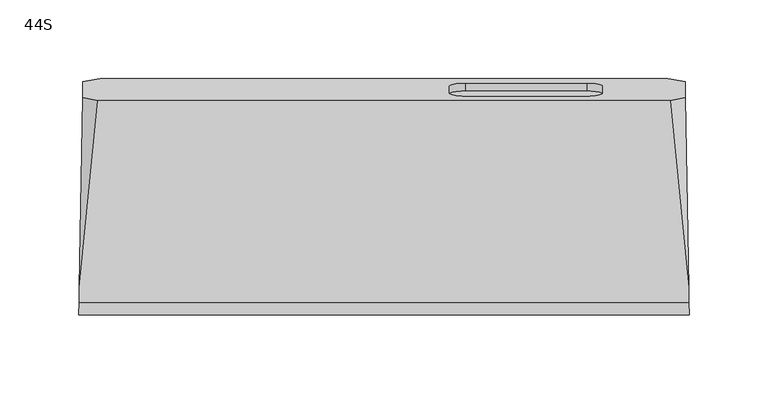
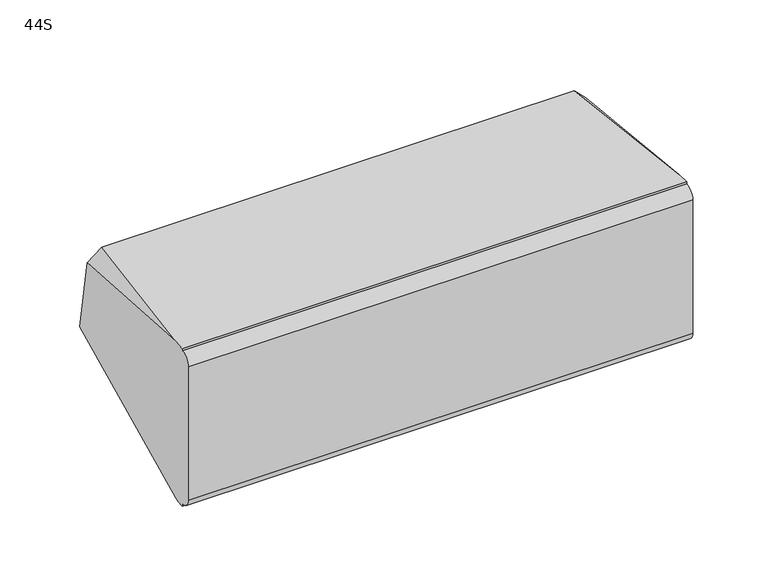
"""IFC4 building model written with IfcOpenShell, lengths in millimetres: proxy geometry, d&b xS-Series 44S Point Source : 44S."""

import ifcopenshell
import ifcopenshell.guid

model = None  # the IFC model being written
_history = None  # IfcOwnerHistory: only IFC2X3 demands one
_inside = {}  # id of a spatial element -> (the spatial element, [elements in it])
_under = {}  # id of a project, library or spatial element -> (it, [spatial elements below it])
_declared = {}  # id of a project -> (the project, [libraries it declares])
_typed = {}  # id of a type object -> (the type object, [elements of that type])
_made_of = {}  # id of a material, layer set ... -> (it, [elements and type objects made of it])


def new_model(schema):
    """Start an empty IFC model of exactly this schema.

    Asked for "IFC4X3", IfcOpenShell would pick the latest addendum, in which some entities
    have other attributes; the version numbers below select the first issue.
    IFC2X3 requires an IfcOwnerHistory on every rooted entity: one is made here for all.
    """
    global model, _history
    if schema == "IFC4X3":
        model = ifcopenshell.file(schema_version=(4, 3, 0, 0))
    else:
        model = ifcopenshell.file(schema=schema)
    _inside.clear()
    _under.clear()
    _declared.clear()
    _typed.clear()
    _made_of.clear()
    _history = None
    if model.schema == "IFC2X3":
        org = make("IfcOrganization", Name="unknown")
        user = make(
            "IfcPersonAndOrganization",
            ThePerson=make("IfcPerson", FamilyName="unknown"),
            TheOrganization=org,
        )
        app = make(
            "IfcApplication",
            ApplicationDeveloper=org,
            Version="unknown",
            ApplicationFullName="unknown",
            ApplicationIdentifier="unknown",
        )
        _history = make(
            "IfcOwnerHistory",
            OwningUser=user,
            OwningApplication=app,
            ChangeAction="ADDED",
            CreationDate=0,
        )
    return model


def make(cls, **values):
    """One entity of the class cls with the attributes given. An attribute that is None is left unset."""
    return model.create_entity(
        cls, **{name: value for name, value in values.items() if value is not None}
    )


def rooted(cls, **values):
    """An entity with a GlobalId (a new one), such as an element, a storey or a relation."""
    return make(cls, GlobalId=ifcopenshell.guid.new(), OwnerHistory=_history, **values)


def si_unit(unit_type, name, prefix=None):
    """IfcSIUnit, for example si_unit("LENGTHUNIT", "METRE", prefix="MILLI")."""
    return make("IfcSIUnit", UnitType=unit_type, Prefix=prefix, Name=name)


def assignment(units):
    """IfcUnitAssignment: the units of a project."""
    return None if units is None else make("IfcUnitAssignment", Units=units)


def point(xyz):
    """IfcCartesianPoint."""
    return None if xyz is None else make("IfcCartesianPoint", Coordinates=xyz)


def direction(xyz):
    """IfcDirection."""
    return None if xyz is None else make("IfcDirection", DirectionRatios=xyz)


def frame(location, z_axis=None, x_axis=None):
    """IfcAxis2Placement3D, a coordinate frame: its origin and axes. An axis left out is left unset."""
    return make(
        "IfcAxis2Placement3D",
        Location=point(location),
        Axis=direction(z_axis),
        RefDirection=direction(x_axis),
    )


def origin():
    """The frame at (0, 0, 0) with its axes left unset."""
    return frame((0.0, 0.0, 0.0))


def place(relative_to, where):
    """IfcLocalPlacement: puts the frame where relative to a parent placement (None: the world)."""
    return make(
        "IfcLocalPlacement", PlacementRelTo=relative_to, RelativePlacement=where
    )


def context(
    kind, dimensions, precision=None, world=None, true_north=None, identifier=None
):
    """IfcGeometricRepresentationContext, for example the 3D "Model" context."""
    return make(
        "IfcGeometricRepresentationContext",
        ContextIdentifier=identifier,
        ContextType=kind,
        CoordinateSpaceDimension=dimensions,
        Precision=precision,
        WorldCoordinateSystem=world,
        TrueNorth=true_north,
    )


def project(units=None, contexts=None):
    """IfcProject with its units and contexts."""
    return rooted(
        "IfcProject",
        Name="project",
        RepresentationContexts=contexts,
        UnitsInContext=assignment(units),
    )


def spatial(cls, under=None, at=None, **own):
    """A site, building, storey or space (cls), placed at a placement, below another one or the project."""
    s = rooted(cls, ObjectPlacement=at, **own)
    if under is not None:
        _under.setdefault(under.id(), (under, []))[1].append(s)
    return s


def polyline(points):
    """IfcPolyline through the points."""
    return make("IfcPolyline", Points=[point(p) for p in points])


def circle_curve(where, radius):
    """IfcCircle in the frame where."""
    return make("IfcCircle", Position=where, Radius=radius)


def ellipse_curve(where, semi_axis1, semi_axis2):
    """IfcEllipse in the frame where."""
    return make(
        "IfcEllipse", Position=where, SemiAxis1=semi_axis1, SemiAxis2=semi_axis2
    )


def shape(context_of_items, identifier, shape_type, items):
    """IfcShapeRepresentation: the items that make up one representation, for example the "Body"."""
    return make(
        "IfcShapeRepresentation",
        ContextOfItems=context_of_items,
        RepresentationIdentifier=identifier,
        RepresentationType=shape_type,
        Items=items,
    )


def source(mapping_origin, context_of_items, identifier, shape_type, items):
    """IfcRepresentationMap: a shape defined once, which mapped items show again and again."""
    return make(
        "IfcRepresentationMap",
        MappingOrigin=mapping_origin,
        MappedRepresentation=shape(context_of_items, identifier, shape_type, items),
    )


def transform(
    local_origin,
    x_axis=None,
    y_axis=None,
    z_axis=None,
    scale=None,
    scale2=None,
    scale3=None,
    uniform=True,
):
    """IfcCartesianTransformationOperator3D, or its non-uniform kind. x_axis, y_axis, z_axis: its Axis1, 2, 3."""
    if uniform:
        return make(
            "IfcCartesianTransformationOperator3D",
            Axis1=direction(x_axis),
            Axis2=direction(y_axis),
            LocalOrigin=point(local_origin),
            Scale=scale,
            Axis3=direction(z_axis),
        )
    return make(
        "IfcCartesianTransformationOperator3DnonUniform",
        Axis1=direction(x_axis),
        Axis2=direction(y_axis),
        LocalOrigin=point(local_origin),
        Scale=scale,
        Axis3=direction(z_axis),
        Scale2=scale2,
        Scale3=scale3,
    )


def mapped(mapping_source, mapping_target):
    """IfcMappedItem: shows the shape of a source again, moved by a transform."""
    return make(
        "IfcMappedItem", MappingSource=mapping_source, MappingTarget=mapping_target
    )


def made_of(thing, what):
    """Note that an element or type object is made of a material, layer set ...; save() writes the relation."""
    if what is not None:
        _made_of.setdefault(what.id(), (what, []))[1].append(thing)
    return thing


def element(
    cls,
    number,
    at=None,
    inside=None,
    cuts=None,
    type_object=None,
    material=None,
    context=None,
    identifier="Body",
    shape_type=None,
    held_by="IfcProductDefinitionShape",
    body=None,
    shapes=None,
    **own,
):
    """One element of the class cls, such as IfcWall. Its Tag is "e" and its number.

    at: its placement. inside: the storey or other place that contains it. cuts: it is an
    opening in that element (IfcRelVoidsElement). A single representation is given by context,
    identifier, shape_type and body (its items); several are given by shapes. held_by: the class
    of the entity that holds the representations. save() writes the other relations.
    """
    e = rooted(cls, Tag="e%d" % number, ObjectPlacement=at, **own)
    if body is not None:
        shapes = [shape(context, identifier, shape_type, body)]
    if shapes is not None:
        e.Representation = make(held_by, Representations=shapes)
    if inside is not None:
        _inside.setdefault(inside.id(), (inside, []))[1].append(e)
    if cuts is not None:
        rooted(
            "IfcRelVoidsElement", RelatingBuildingElement=cuts, RelatedOpeningElement=e
        )
    if type_object is not None:
        _typed.setdefault(type_object.id(), (type_object, []))[1].append(e)
    return made_of(e, material)


def aggregate(whole, parts):
    """IfcRelAggregates: a whole, such as a stair, and the parts it consists of."""
    return rooted("IfcRelAggregates", RelatingObject=whole, RelatedObjects=parts)


def save(model, path):
    """Write the relations noted so far, then the file.

    IfcRelAggregates (storeys below a building ...), IfcRelContainedInSpatialStructure (elements
    in a storey), IfcRelDefinesByType, IfcRelAssociatesMaterial and IfcRelDeclares: one each for
    every whole, place, type object, material and project.
    """
    for whole, parts in _under.values():
        aggregate(whole, parts)
    for where, things in _inside.values():
        rooted(
            "IfcRelContainedInSpatialStructure",
            RelatedElements=things,
            RelatingStructure=where,
        )
    for kind, things in _typed.values():
        rooted("IfcRelDefinesByType", RelatedObjects=things, RelatingType=kind)
    for what, things in _made_of.values():
        rooted("IfcRelAssociatesMaterial", RelatedObjects=things, RelatingMaterial=what)
    for by, libraries in _declared.values():
        rooted("IfcRelDeclares", RelatingContext=by, RelatedDefinitions=libraries)
    model.write(path)


def plane_surface(at):
    """IfcPlane: the flat surface through the origin of the frame at, square to its z axis."""
    return make("IfcPlane", Position=at)


def cylinder_surface(at, radius):
    """IfcCylindricalSurface: all points at the distance radius from the z axis of the frame at."""
    return make("IfcCylindricalSurface", Position=at, Radius=radius)


def revolved_surface(curve, axis_point, axis_direction):
    """IfcSurfaceOfRevolution: the curve turned about the line through axis_point along axis_direction."""
    return make(
        "IfcSurfaceOfRevolution",
        SweptCurve=make("IfcArbitraryOpenProfileDef", ProfileType="CURVE", Curve=curve),
        AxisPosition=make("IfcAxis1Placement", Location=point(axis_point), Axis=direction(axis_direction)),
    )


def advanced_brep(points, edges, surfaces, faces):
    """IfcAdvancedBrep: a solid bounded by faces that lie on surfaces and meet in shared edges.

    An edge is (start, end): straight between two places in points (the first is 0);
    or (start, end, curve); or (start, end, curve, False) where it runs against its curve.
    A face is (place in surfaces, loops), or (place, loops, False) where it looks against
    its surface's normal. A loop lists edges by number (the first is 1), with a minus sign
    where the edge is run from its end to its start. The first loop is the outer one.
    """
    corners = [point(p) for p in points]
    vertices = [make("IfcVertexPoint", VertexGeometry=c) for c in corners]
    made = []
    for start, end, *more in edges:
        made.append(
            make(
                "IfcEdgeCurve",
                EdgeStart=vertices[start],
                EdgeEnd=vertices[end],
                EdgeGeometry=more[0] if more else make("IfcPolyline", Points=[corners[start], corners[end]]),
                SameSense=more[1] if len(more) > 1 else True,
            )
        )
    hull = []
    for where, loops, *sense in faces:
        bounds = []
        for j, loop in enumerate(loops):
            ring = [make("IfcOrientedEdge", EdgeElement=made[abs(k) - 1], Orientation=k > 0) for k in loop]
            bounds.append(
                make(
                    "IfcFaceOuterBound" if j == 0 else "IfcFaceBound",
                    Bound=make("IfcEdgeLoop", EdgeList=ring),
                    Orientation=True,
                )
            )
        hull.append(make("IfcAdvancedFace", Bounds=bounds, FaceSurface=surfaces[where], SameSense=sense[0] if sense else True))
    return make("IfcAdvancedBrep", Outer=make("IfcClosedShell", CfsFaces=hull))


def proxy_44s_4462d177(model_context):
    return source(origin(), model_context, "Body", "AdvancedBrep", [
        advanced_brep(
        [(193.2924342, -66.0, 64.0), (193.2924342, -66.0, 62.0435242), (193.4294708, -73.9650952, 54.078429), (193.4294708, -73.9650952, -54.0), (193.2918337, -65.9650952, -62.0), (193.2918337, -65.9650952, -64.0), (193.1898069, -60.0349048, -64.0), (193.132384, -56.6972655, -62.7855103), (190.8800877, 74.2148737, -4.3760941), (191.0574064, 63.9084293, 54.074657), (193.132384, -56.6972655, 64.0), (-193.2924342, -66.0, 62.0435242), (-193.2924342, -66.0, 64.0), (-193.132384, -56.6972655, 64.0), (-191.0574064, 63.9084293, 54.074657), (-190.8800877, 74.2148737, -4.3760941), (-193.132384, -56.6972655, -62.7855103), (-193.1898069, -60.0349048, -64.0), (-193.2918337, -65.9650952, -64.0), (-193.2918337, -65.9650952, -62.0), (-193.4294708, -73.9650952, -54.0), (-193.4294708, -73.9650952, 54.078429), (181.3061997, 62.1583235, 64.0), (-181.3061997, 62.1583235, 64.0), (-179.9289467, 76.0, -14.5000481), (179.9289467, 76.0, -14.5000481), (138.5, 71.3365881, 11.9474751), (138.5, 66.8217355, 37.5524767), (128.5, 65.0852537, 47.4005542), (51.5, 65.0852537, 47.4005542), (41.5, 66.8217355, 37.5524767), (41.5, 71.3365881, 11.9474751), (51.5, 73.0730698, 2.0993976), (128.5, 73.0730698, 2.0993976), (138.5, 66.4125493, 11.0792343), (128.5, 68.1490311, 1.2311567), (51.5, 68.1490311, 1.2311567), (41.5, 66.4125493, 11.0792343), (41.5, 61.8976967, 36.6842358), (51.5, 60.1612149, 46.5323134), (128.5, 60.1612149, 46.5323134), (138.5, 61.8976967, 36.6842358)],
        [
            (0, 1),
            (1, 2, ellipse_curve(frame((193.2924342, -66.0, 54.078429), z_axis=(0.9998520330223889, 0.017202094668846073, 0.0), x_axis=(0.01720209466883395, -0.999852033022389, 0.0)), 7.9662739, 7.9650952)),
            (2, 3),
            (3, 4, ellipse_curve(frame((193.2918337, -65.9650952, -54.0), z_axis=(0.9998520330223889, 0.017202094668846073, 0.0), x_axis=(0.01720209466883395, -0.999852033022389, 0.0)), 8.0011839, 8.0)),
            (4, 5),
            (5, 6),
            (6, 7),
            (7, 8),
            (8, 9),
            (9, 10),
            (10, 0),
            (11, 12),
            (12, 13),
            (13, 14),
            (14, 15),
            (15, 16),
            (16, 17),
            (17, 18),
            (18, 19),
            (19, 20, ellipse_curve(frame((-193.2918337, -65.9650952, -54.0), z_axis=(-0.999852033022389, 0.01720209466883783, 0.0), x_axis=(0.017202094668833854, 0.999852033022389, 0.0)), 8.0011839, 8.0)),
            (20, 21),
            (21, 11, ellipse_curve(frame((-193.2924342, -66.0, 54.078429), z_axis=(-0.999852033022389, 0.01720209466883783, 0.0), x_axis=(0.017202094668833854, 0.999852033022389, 0.0)), 7.9662739, 7.9650952)),
            (0, 12),
            (11, 1),
            (21, 2),
            (20, 3),
            (19, 4),
            (18, 5),
            (17, 6),
            (10, 22),
            (22, 23),
            (23, 13),
            (16, 24),
            (24, 25),
            (25, 7),
            (9, 22),
            (23, 14),
            (15, 24),
            (25, 8),
            (26, 27),
            (27, 28, circle_curve(frame((128.5, 66.8217355, 37.5524767), z_axis=(0.0, -0.9848077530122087, -0.17364817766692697), x_axis=(0.0, 0.17364817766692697, -0.9848077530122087)), 10.0)),
            (28, 29),
            (29, 30, circle_curve(frame((51.5, 66.8217355, 37.5524767), z_axis=(0.0, -0.9848077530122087, -0.17364817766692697), x_axis=(0.0, 0.17364817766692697, -0.9848077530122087)), 10.0)),
            (30, 31),
            (31, 32, circle_curve(frame((51.5, 71.3365881, 11.9474751), z_axis=(0.0, -0.9848077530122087, -0.17364817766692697), x_axis=(0.0, 0.17364817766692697, -0.9848077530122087)), 10.0)),
            (32, 33),
            (33, 26, circle_curve(frame((128.5, 71.3365881, 11.9474751), z_axis=(0.0, -0.9848077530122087, -0.17364817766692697), x_axis=(0.0, 0.17364817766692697, -0.9848077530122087)), 10.0)),
            (34, 35, circle_curve(frame((128.5, 66.4125493, 11.0792343), z_axis=(0.0, 0.9848077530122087, 0.17364817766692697), x_axis=(0.0, 0.17364817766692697, -0.9848077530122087)), 10.0)),
            (35, 36),
            (36, 37, circle_curve(frame((51.5, 66.4125493, 11.0792343), z_axis=(0.0, 0.9848077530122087, 0.17364817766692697), x_axis=(0.0, 0.17364817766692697, -0.9848077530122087)), 10.0)),
            (37, 38),
            (38, 39, circle_curve(frame((51.5, 61.8976967, 36.6842358), z_axis=(0.0, 0.9848077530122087, 0.17364817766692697), x_axis=(0.0, 0.17364817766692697, -0.9848077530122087)), 10.0)),
            (39, 40),
            (40, 41, circle_curve(frame((128.5, 61.8976967, 36.6842358), z_axis=(0.0, 0.9848077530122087, 0.17364817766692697), x_axis=(0.0, 0.17364817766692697, -0.9848077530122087)), 10.0)),
            (41, 34),
            (41, 27),
            (26, 34),
            (40, 28),
            (39, 29),
            (38, 30),
            (37, 31),
            (36, 32),
            (35, 33),
        ],
        [
            plane_surface(frame((193.8309972, -97.3033587, -100.0), z_axis=(0.9998520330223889, 0.017202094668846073, 0.0), x_axis=(0.0, 0.0, 1.0))),
            plane_surface(frame((-190.7119283, 83.9889493, -100.0), z_axis=(-0.999852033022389, 0.01720209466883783, 0.0), x_axis=(0.0, 0.0, 1.0))),
            plane_surface(frame((207.1452552, -66.0, 64.0), z_axis=(0.0, -1.0, 0.0), x_axis=(-1.0, 0.0, 0.0))),
            cylinder_surface(frame((-207.1452552, -66.0, 54.078429), z_axis=(1.0, 0.0, 0.0), x_axis=(0.0, 0.0, 1.0)), 7.9650952),
            plane_surface(frame((207.1452552, -73.9650952, 54.078429), z_axis=(0.0, -1.0, 0.0), x_axis=(-1.0, 0.0, 0.0))),
            cylinder_surface(frame((-207.1452552, -65.9650952, -54.0), z_axis=(1.0, 0.0, 0.0), x_axis=(0.0, 0.0, 1.0)), 8.0),
            plane_surface(frame((207.1452552, -65.9650952, -62.0), z_axis=(0.0, -1.0, 0.0), x_axis=(-1.0, 0.0, 0.0))),
            plane_surface(frame((207.1452552, -65.9650952, -64.0), z_axis=(0.0, 0.0, -1.0), x_axis=(-1.0, 0.0, 0.0))),
            plane_surface(frame((207.1452552, -60.0349048, 64.0), z_axis=(0.0, 0.0, 1.0), x_axis=(-1.0, 0.0, 0.0))),
            plane_surface(frame((0.0, 76.0, -14.5000481), z_axis=(0.0, 0.34194264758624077, -0.939720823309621), x_axis=(1.0, 0.0, 0.0))),
            plane_surface(frame((186.6967137, 76.0, 57.232233), z_axis=(0.705363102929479, 0.07018394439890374, 0.7053631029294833), x_axis=(-0.7071067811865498, 0.0, 0.7071067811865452))),
            plane_surface(frame((-186.6967137, 76.0, 57.232233), z_axis=(-0.7053631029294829, 0.07018394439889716, 0.70536310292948), x_axis=(-0.7071067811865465, 0.0, -0.7071067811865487))),
            plane_surface(frame((-186.6967137, 76.0, -7.7322812), z_axis=(-0.6719558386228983, 0.31136907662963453, -0.6719558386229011), x_axis=(0.7071067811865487, 0.0, -0.7071067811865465))),
            plane_surface(frame((186.6967137, 76.0, -7.7322812), z_axis=(0.6719558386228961, 0.31136907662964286, -0.6719558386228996), x_axis=(0.7071067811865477, 0.0, 0.7071067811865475))),
            plane_surface(frame((250.0, 59.1151772, 81.2585403), z_axis=(0.0, 0.9848077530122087, 0.17364817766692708), x_axis=(-1.0, 0.0, 0.0))),
            plane_surface(frame((138.5, 57.2342848, 63.1317591), z_axis=(0.0, 0.9848077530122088, 0.173648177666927), x_axis=(0.0, -0.173648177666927, 0.9848077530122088))),
            plane_surface(frame((138.5, 66.4125493, 11.0792343), z_axis=(-1.0, 0.0, 0.0), x_axis=(0.0, 0.9848077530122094, 0.1736481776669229))),
            revolved_surface(polyline([(128.5, 63.63417846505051, 26.836158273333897), (128.5, 68.55821727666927, 27.704399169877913)]), (128.5, 66.8217355, 37.5524767), (0.0, -0.9848077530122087, -0.17364817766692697)),
            plane_surface(frame((128.5, 60.1612149, 46.5323134), z_axis=(0.0, 0.1736481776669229, -0.9848077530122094), x_axis=(0.0, 0.9848077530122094, 0.1736481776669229))),
            revolved_surface(polyline([(51.5, 63.63417846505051, 26.836158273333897), (51.5, 68.55821727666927, 27.704399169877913)]), (51.5, 66.8217355, 37.5524767), (0.0, -0.9848077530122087, -0.17364817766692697)),
            plane_surface(frame((41.5, 61.8976967, 36.6842358), z_axis=(1.0, 0.0, 0.0), x_axis=(0.0, 0.9848077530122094, 0.1736481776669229))),
            revolved_surface(polyline([(51.5, 68.1490310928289, 1.2311566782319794), (51.5, 73.07306987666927, 2.0993975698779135)]), (51.5, 71.3365881, 11.9474751), (0.0, -0.9848077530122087, -0.17364817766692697)),
            plane_surface(frame((51.5, 68.1490311, 1.2311567), z_axis=(0.0, -0.1736481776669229, 0.9848077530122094), x_axis=(0.0, 0.9848077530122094, 0.1736481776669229))),
            revolved_surface(polyline([(128.5, 68.1490310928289, 1.2311566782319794), (128.5, 73.07306987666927, 2.0993975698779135)]), (128.5, 71.3365881, 11.9474751), (0.0, -0.9848077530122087, -0.17364817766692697)),
        ],
        [
            (0, [[1, 2, 3, 4, 5, 6, 7, 8, 9, 10, 11]]),
            (1, [[12, 13, 14, 15, 16, 17, 18, 19, 20, 21, 22]]),
            (2, [[23, -12, 24, -1]]),
            (3, [[-24, -22, 25, -2]]),
            (4, [[-25, -21, 26, -3]]),
            (5, [[-26, -20, 27, -4]]),
            (6, [[-27, -19, 28, -5]]),
            (7, [[-28, -18, 29, -6]]),
            (8, [[-23, -11, 30, 31, 32, -13]]),
            (9, [[-29, -17, 33, 34, 35, -7]]),
            (10, [[-30, -10, 36]]),
            (11, [[-32, 37, -14]]),
            (12, [[-33, -16, 38]]),
            (13, [[-35, 39, -8]]),
            (14, [[-31, -36, -9, -39, -34, -38, -15, -37], [40, 41, 42, 43, 44, 45, 46, 47]]),
            (15, [[48, 49, 50, 51, 52, 53, 54, 55]]),
            (16, [[-55, 56, -40, 57]]),
            (17, [[-54, 58, -41, -56]]),
            (18, [[-53, 59, -42, -58]]),
            (19, [[-52, 60, -43, -59]]),
            (20, [[-51, 61, -44, -60]]),
            (21, [[-50, 62, -45, -61]]),
            (22, [[-49, 63, -46, -62]]),
            (23, [[-48, -57, -47, -63]]),
        ],
    ),
    ])


if __name__ == "__main__":
    model = new_model("IFC4")
    model_context = context("Model", 3, world=origin())
    ifc_project = project(units=[si_unit("LENGTHUNIT", "METRE", prefix="MILLI")], contexts=[model_context])
    site = spatial("IfcSite", under=ifc_project)
    building = spatial("IfcBuilding", under=site)
    placement = place(None, origin())
    proxy_44s_shape = proxy_44s_4462d177(model_context)
    element("IfcBuildingElementProxy", 1, Name="d&b xS-Series 44S Point Source : 44S", ObjectType="d&b xS-Series 44S Point Source : 44S", at=placement, inside=building, context=model_context, shape_type="MappedRepresentation", body=[
        mapped(proxy_44s_shape, transform((0.0, 0.0, 0.0), x_axis=(1.0, 0.0, 0.0), y_axis=(0.0, 1.0, 0.0), z_axis=(0.0, 0.0, 1.0))),
    ])
    save(model, "model.ifc")
